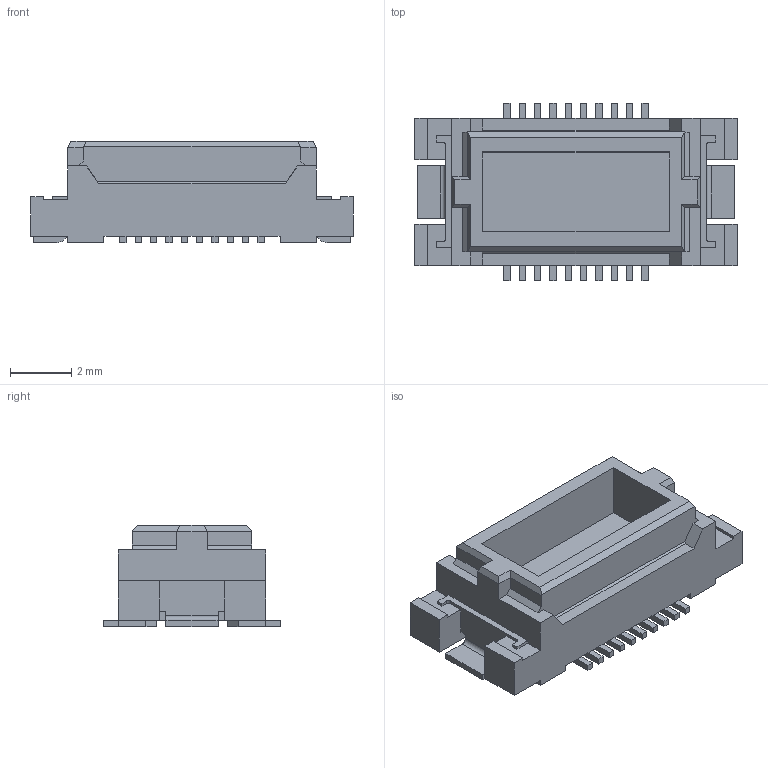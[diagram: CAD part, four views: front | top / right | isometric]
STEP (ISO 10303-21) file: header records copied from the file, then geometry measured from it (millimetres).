
FILE_DESCRIPTION (( 'STEP AP214' ), '1' );
FILE_NAME ('14_5046_020_140(640)_XXX+.STEP', '2021-11-05T04:35:51', ( '' ), ( '' ), 'SwSTEP 2.0', 'SolidWorks 2017', '' );
FILE_SCHEMA (( 'AUTOMOTIVE_DESIGN' ));
Length unit declared in the file: millimetre
Products named in the file (1): 14_5046_020_140(640)_XXX+
Bounding box: 10.5 x 5.8 x 3.3 mm (x, y, z)
Volume: 92.4 mm3; surface area: 242 mm2
Topology: 1 solids, 1 shells, 269 faces, 762 edges, 496 vertices
Faces by surface type: plane 239, cylinder 28, bspline 2
Entity records: 8688 total; most frequent: CARTESIAN_POINT 1860, ORIENTED_EDGE 1524, DIRECTION 1246, EDGE_CURVE 762, VECTOR 598, LINE 598, VERTEX_POINT 496, AXIS2_PLACEMENT_3D 324
